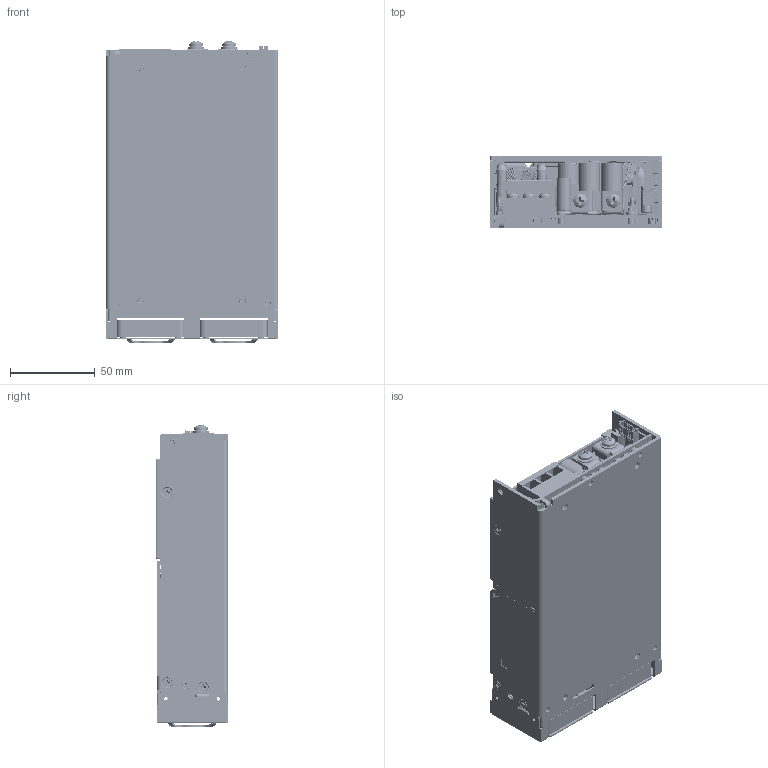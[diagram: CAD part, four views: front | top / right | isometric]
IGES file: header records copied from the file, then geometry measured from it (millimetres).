
Start section: SolidWorks IGES file using analytic representation for surfaces
Global section: file name: S:\RnD\Product\GSP500PSXX\01 STANDARD\DRAWING\03 MECHANICAL\SW\WEB FILES\ASSY GSP500-EF.IGS; native system: SolidWorks 2015; preprocessor: SolidWorks 2015; author: LTorio; date: 150204.110547; units: millimetre
Bounding box: 101.7 x 42.4 x 177.79 mm (x, y, z)
Surface area: 409296.9 mm2 (no closed solid volume)
Topology: 0 solids, 0 shells, 13031 faces, 119934 edges, 119794 vertices
Faces by surface type: bspline 8386, revolution 4645
